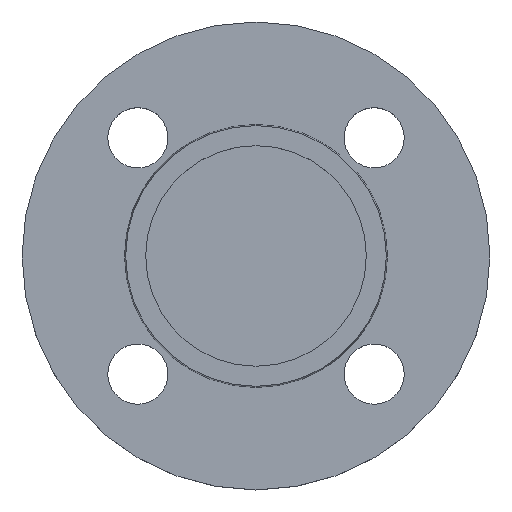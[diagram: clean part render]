
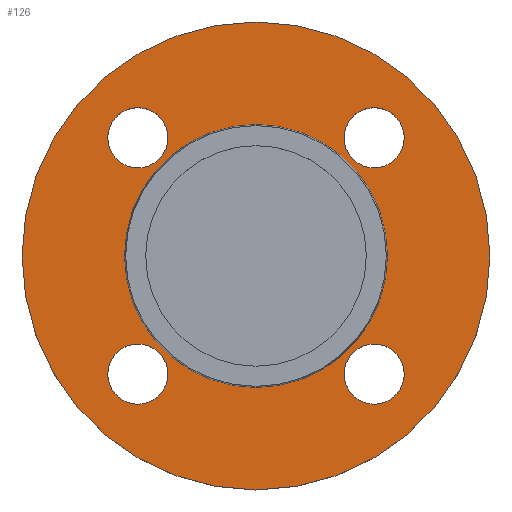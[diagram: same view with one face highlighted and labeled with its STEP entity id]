
A CAD part, top view. The second image highlights one B-rep face of the part: STEP entity #126.
In plain terms, the highlighted planar face has unit normal (0, 0, 1).
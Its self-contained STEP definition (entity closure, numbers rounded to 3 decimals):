
#3 = AXIS2_PLACEMENT_3D ( 'NONE', #589, #21, #276 ) ;
#18 = EDGE_LOOP ( 'NONE', ( #307, #532 ) ) ;
#21 = DIRECTION ( 'NONE',  ( 0., 0., -1. ) ) ;
#32 = EDGE_CURVE ( 'NONE', #249, #525, #719, .T. ) ;
#37 = DIRECTION ( 'NONE',  ( 0., 0., -1. ) ) ;
#43 = AXIS2_PLACEMENT_3D ( 'NONE', #678, #47, #302 ) ;
#47 = DIRECTION ( 'NONE',  ( 0., 0., -1. ) ) ;
#53 = ORIENTED_EDGE ( 'NONE', *, *, #795, .T. ) ;
#57 = VERTEX_POINT ( 'NONE', #481 ) ;
#58 = CARTESIAN_POINT ( 'NONE',  ( 35.355, -35.355, -2. ) ) ;
#68 = CARTESIAN_POINT ( 'NONE',  ( 39.353, 0., -2. ) ) ;
#84 = CARTESIAN_POINT ( 'NONE',  ( 39.353, 0., -2. ) ) ;
#102 = EDGE_CURVE ( 'NONE', #347, #695, #684, .T. ) ;
#107 = AXIS2_PLACEMENT_3D ( 'NONE', #528, #782, #214 ) ;
#113 = DIRECTION ( 'NONE',  ( 0., 0., -1. ) ) ;
#120 = ORIENTED_EDGE ( 'NONE', *, *, #680, .T. ) ;
#126 = ADVANCED_FACE ( 'NONE', ( #768, #197, #453, #699, #131, #388 ), #641, .T. ) ;
#131 = FACE_BOUND ( 'NONE', #600, .T. ) ;
#133 = CARTESIAN_POINT ( 'NONE',  ( -44.355, 35.355, -2. ) ) ;
#150 = CARTESIAN_POINT ( 'NONE',  ( -35.355, 35.355, -2. ) ) ;
#156 = CARTESIAN_POINT ( 'NONE',  ( 35.355, 35.355, -2. ) ) ;
#164 = CARTESIAN_POINT ( 'NONE',  ( 26.355, 35.355, -2. ) ) ;
#171 = CARTESIAN_POINT ( 'NONE',  ( 70., 0., -2. ) ) ;
#188 = VERTEX_POINT ( 'NONE', #469 ) ;
#192 = EDGE_CURVE ( 'NONE', #540, #511, #563, .T. ) ;
#196 = VERTEX_POINT ( 'NONE', #84 ) ;
#197 = FACE_BOUND ( 'NONE', #685, .T. ) ;
#209 = AXIS2_PLACEMENT_3D ( 'NONE', #150, #404, #657 ) ;
#214 = DIRECTION ( 'NONE',  ( 1., 0., 0. ) ) ;
#219 = CARTESIAN_POINT ( 'NONE',  ( -26.355, 35.355, -2. ) ) ;
#220 = DIRECTION ( 'NONE',  ( 0., 0., -1. ) ) ;
#221 = CARTESIAN_POINT ( 'NONE',  ( -35.355, -35.355, -2. ) ) ;
#229 = AXIS2_PLACEMENT_3D ( 'NONE', #604, #37, #291 ) ;
#232 = EDGE_CURVE ( 'NONE', #525, #249, #783, .T. ) ;
#234 = CARTESIAN_POINT ( 'NONE',  ( 0., 0., -2. ) ) ;
#249 = VERTEX_POINT ( 'NONE', #164 ) ;
#260 = ORIENTED_EDGE ( 'NONE', *, *, #784, .F. ) ;
#270 = EDGE_LOOP ( 'NONE', ( #712, #53 ) ) ;
#276 = DIRECTION ( 'NONE',  ( -1., 0., 0. ) ) ;
#279 = VERTEX_POINT ( 'NONE', #293 ) ;
#291 = DIRECTION ( 'NONE',  ( -1., 0., 0. ) ) ;
#293 = CARTESIAN_POINT ( 'NONE',  ( -44.355, -35.355, -2. ) ) ;
#295 = CIRCLE ( 'NONE', #752, 39.353 ) ;
#299 = CARTESIAN_POINT ( 'NONE',  ( 0., 0., -2. ) ) ;
#302 = DIRECTION ( 'NONE',  ( 1., 0., 0. ) ) ;
#307 = ORIENTED_EDGE ( 'NONE', *, *, #692, .T. ) ;
#312 = ORIENTED_EDGE ( 'NONE', *, *, #32, .T. ) ;
#317 = DIRECTION ( 'NONE',  ( 0., 0., -1. ) ) ;
#319 = CIRCLE ( 'NONE', #426, 9. ) ;
#323 = CIRCLE ( 'NONE', #428, 70. ) ;
#327 = DIRECTION ( 'NONE',  ( 0., 0., 1. ) ) ;
#347 = VERTEX_POINT ( 'NONE', #807 ) ;
#357 = CIRCLE ( 'NONE', #826, 9. ) ;
#358 = AXIS2_PLACEMENT_3D ( 'NONE', #156, #409, #662 ) ;
#362 = CIRCLE ( 'NONE', #3, 70. ) ;
#369 = DIRECTION ( 'NONE',  ( 1., 0., 0. ) ) ;
#388 = FACE_OUTER_BOUND ( 'NONE', #654, .T. ) ;
#393 = VERTEX_POINT ( 'NONE', #513 ) ;
#394 = CIRCLE ( 'NONE', #43, 9. ) ;
#404 = DIRECTION ( 'NONE',  ( 0., 0., -1. ) ) ;
#407 = ORIENTED_EDGE ( 'NONE', *, *, #620, .T. ) ;
#409 = DIRECTION ( 'NONE',  ( 0., 0., -1. ) ) ;
#426 = AXIS2_PLACEMENT_3D ( 'NONE', #221, #478, #727 ) ;
#428 = AXIS2_PLACEMENT_3D ( 'NONE', #234, #493, #741 ) ;
#437 = AXIS2_PLACEMENT_3D ( 'NONE', #58, #317, #569 ) ;
#453 = FACE_BOUND ( 'NONE', #18, .T. ) ;
#457 = ORIENTED_EDGE ( 'NONE', *, *, #721, .T. ) ;
#469 = CARTESIAN_POINT ( 'NONE',  ( -39.353, 0., -2. ) ) ;
#477 = DIRECTION ( 'NONE',  ( 1., 0., 0. ) ) ;
#478 = DIRECTION ( 'NONE',  ( 0., 0., -1. ) ) ;
#480 = ORIENTED_EDGE ( 'NONE', *, *, #808, .T. ) ;
#481 = CARTESIAN_POINT ( 'NONE',  ( -26.355, -35.355, -2. ) ) ;
#483 = CIRCLE ( 'NONE', #107, 9. ) ;
#493 = DIRECTION ( 'NONE',  ( 0., 0., -1. ) ) ;
#495 = DIRECTION ( 'NONE',  ( 0., 0., -1. ) ) ;
#511 = VERTEX_POINT ( 'NONE', #219 ) ;
#513 = CARTESIAN_POINT ( 'NONE',  ( -70., 0., -2. ) ) ;
#525 = VERTEX_POINT ( 'NONE', #701 ) ;
#528 = CARTESIAN_POINT ( 'NONE',  ( 35.355, -35.355, -2. ) ) ;
#532 = ORIENTED_EDGE ( 'NONE', *, *, #192, .T. ) ;
#540 = VERTEX_POINT ( 'NONE', #133 ) ;
#555 = CARTESIAN_POINT ( 'NONE',  ( 26.355, -35.355, -2. ) ) ;
#563 = CIRCLE ( 'NONE', #209, 9. ) ;
#569 = DIRECTION ( 'NONE',  ( 1., 0., 0. ) ) ;
#573 = CIRCLE ( 'NONE', #229, 39.353 ) ;
#580 = DIRECTION ( 'NONE',  ( 1., 0., 0. ) ) ;
#589 = CARTESIAN_POINT ( 'NONE',  ( 0., 0., -2. ) ) ;
#600 = EDGE_LOOP ( 'NONE', ( #407, #120 ) ) ;
#604 = CARTESIAN_POINT ( 'NONE',  ( 0., 0., -2. ) ) ;
#620 = EDGE_CURVE ( 'NONE', #188, #196, #573, .T. ) ;
#635 = EDGE_CURVE ( 'NONE', #652, #393, #323, .T. ) ;
#641 = PLANE ( 'NONE',  #643 ) ;
#643 = AXIS2_PLACEMENT_3D ( 'NONE', #68, #327, #580 ) ;
#652 = VERTEX_POINT ( 'NONE', #171 ) ;
#654 = EDGE_LOOP ( 'NONE', ( #661, #260 ) ) ;
#657 = DIRECTION ( 'NONE',  ( 1., 0., 0. ) ) ;
#661 = ORIENTED_EDGE ( 'NONE', *, *, #635, .F. ) ;
#662 = DIRECTION ( 'NONE',  ( 1., 0., 0. ) ) ;
#674 = AXIS2_PLACEMENT_3D ( 'NONE', #792, #220, #477 ) ;
#678 = CARTESIAN_POINT ( 'NONE',  ( -35.355, 35.355, -2. ) ) ;
#680 = EDGE_CURVE ( 'NONE', #196, #188, #295, .T. ) ;
#682 = CARTESIAN_POINT ( 'NONE',  ( -35.355, -35.355, -2. ) ) ;
#684 = CIRCLE ( 'NONE', #437, 9. ) ;
#685 = EDGE_LOOP ( 'NONE', ( #480, #457 ) ) ;
#686 = EDGE_LOOP ( 'NONE', ( #690, #312 ) ) ;
#690 = ORIENTED_EDGE ( 'NONE', *, *, #232, .T. ) ;
#692 = EDGE_CURVE ( 'NONE', #511, #540, #394, .T. ) ;
#695 = VERTEX_POINT ( 'NONE', #555 ) ;
#699 = FACE_BOUND ( 'NONE', #686, .T. ) ;
#701 = CARTESIAN_POINT ( 'NONE',  ( 44.355, 35.355, -2. ) ) ;
#712 = ORIENTED_EDGE ( 'NONE', *, *, #102, .T. ) ;
#719 = CIRCLE ( 'NONE', #358, 9. ) ;
#721 = EDGE_CURVE ( 'NONE', #279, #57, #357, .T. ) ;
#727 = DIRECTION ( 'NONE',  ( 1., 0., 0. ) ) ;
#741 = DIRECTION ( 'NONE',  ( -1., 0., 0. ) ) ;
#745 = DIRECTION ( 'NONE',  ( -1., 0., 0. ) ) ;
#752 = AXIS2_PLACEMENT_3D ( 'NONE', #299, #495, #745 ) ;
#768 = FACE_BOUND ( 'NONE', #270, .T. ) ;
#782 = DIRECTION ( 'NONE',  ( 0., 0., -1. ) ) ;
#783 = CIRCLE ( 'NONE', #674, 9. ) ;
#784 = EDGE_CURVE ( 'NONE', #393, #652, #362, .T. ) ;
#792 = CARTESIAN_POINT ( 'NONE',  ( 35.355, 35.355, -2. ) ) ;
#795 = EDGE_CURVE ( 'NONE', #695, #347, #483, .T. ) ;
#807 = CARTESIAN_POINT ( 'NONE',  ( 44.355, -35.355, -2. ) ) ;
#808 = EDGE_CURVE ( 'NONE', #57, #279, #319, .T. ) ;
#826 = AXIS2_PLACEMENT_3D ( 'NONE', #682, #113, #369 ) ;
